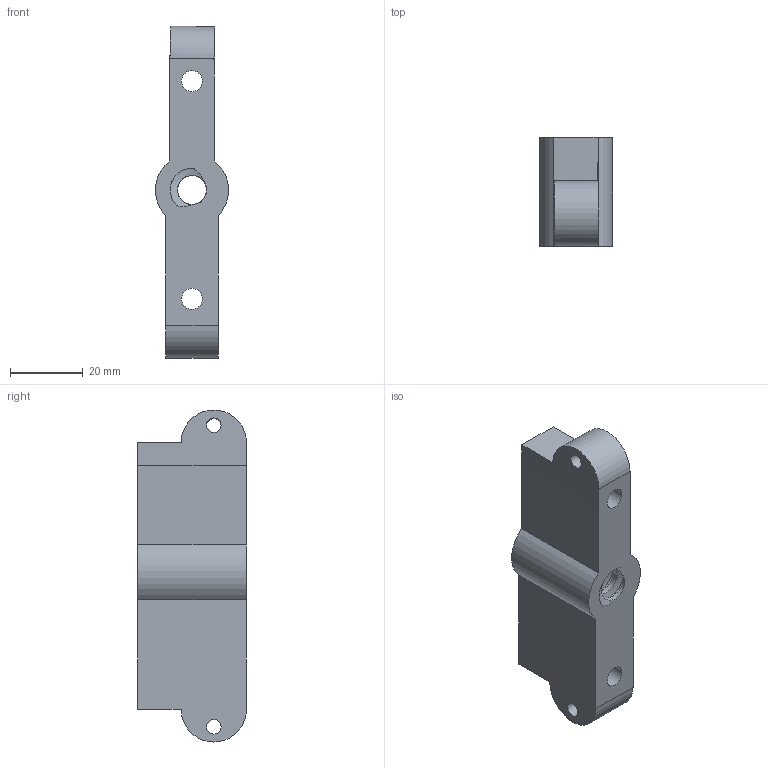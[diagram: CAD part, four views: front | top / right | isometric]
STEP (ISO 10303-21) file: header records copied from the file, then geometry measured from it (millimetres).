
FILE_DESCRIPTION(/* description */ ('STEP AP242 Edition 2','CAx-IF Rec.Pracs.---Representation and Presentation of Product Manufacturing Information (PMI)---4.0---2014-10-13','CAx-IF Rec.Pracs.---3D Tessellated Geometry---0.4---2014-09-14','2;1','CAx-IF Rec.Pracs.---User Defined Attributes---1.5---2016-08-15'),/* implementation_level */ '2;1');
FILE_NAME(/* name */ 'Assembly 1 - Chariot',/* time_stamp */ '2026-08-25T12:51:58Z',/* author */ (''),/* organization */ (''),/* preprocessor_version */ 'ST-DEVELOPER v20',/* originating_system */ 'ONSHAPE BY PTC INC, 1.219',/* authorisation */ ' ');
FILE_SCHEMA (('AP242_MANAGED_MODEL_BASED_3D_ENGINEERING_MIM_LF { 1 0 10303 442 3 1 4 }'));
Length unit declared in the file: metre
Products named in the file (1): Chariot
Bounding box: 20.16 x 30 x 91.46 mm (x, y, z)
Volume: 30550.5 mm3; surface area: 11085.4 mm2
Topology: 1 solids, 1 shells, 24 faces, 62 edges, 40 vertices
Faces by surface type: plane 12, cylinder 10, bspline 2
Full cylindrical faces by diameter (mm): 4 x2, 5.8 x2
Entity records: 1657 total; most frequent: CARTESIAN_POINT 1051, DIRECTION 117, ORIENTED_EDGE 116, EDGE_CURVE 58, AXIS2_PLACEMENT_3D 44, VERTEX_POINT 40, EDGE_LOOP 38, FACE_BOUND 38
